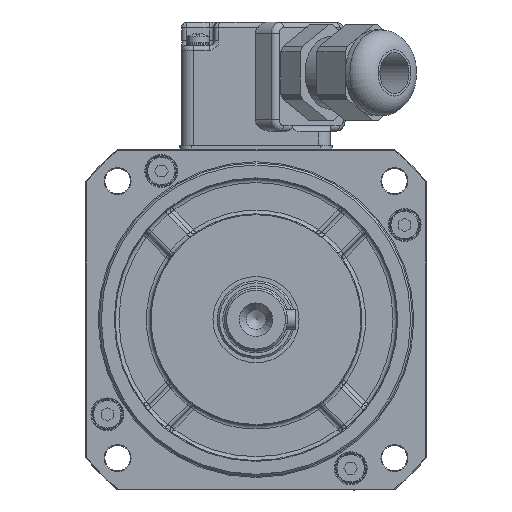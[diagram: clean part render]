
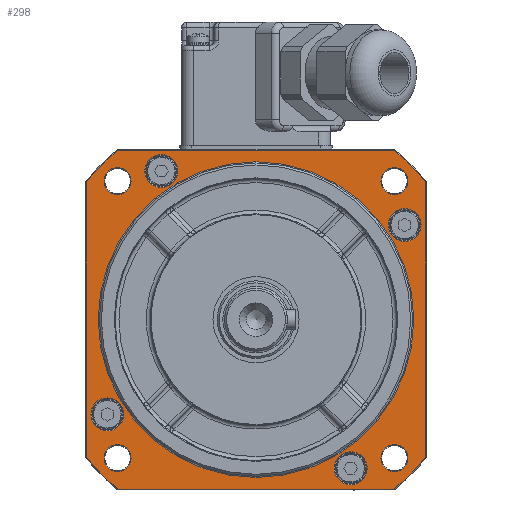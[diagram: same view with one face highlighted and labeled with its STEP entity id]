
A CAD part, front view. The second image highlights one B-rep face of the part: STEP entity #298.
In plain terms, the highlighted planar face has unit normal (0, -1, 0).
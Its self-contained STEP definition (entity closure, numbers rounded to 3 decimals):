
#298=ADVANCED_FACE('',(#2345,#2346,#2347,#2348,#2349,#2350,#2351,#2352,#2353,#2354),#2355,.T.);
#2345=FACE_BOUND('',#8034,.T.);
#2346=FACE_BOUND('',#8035,.T.);
#2347=FACE_BOUND('',#8036,.T.);
#2348=FACE_BOUND('',#8037,.T.);
#2349=FACE_BOUND('',#8038,.T.);
#2350=FACE_BOUND('',#8039,.T.);
#2351=FACE_BOUND('',#8040,.T.);
#2352=FACE_BOUND('',#8041,.T.);
#2353=FACE_BOUND('',#8042,.T.);
#2354=FACE_OUTER_BOUND('',#8043,.T.);
#2355=PLANE('',#8044);
#8034=EDGE_LOOP('',(#18269));
#8035=EDGE_LOOP('',(#18270));
#8036=EDGE_LOOP('',(#18271));
#8037=EDGE_LOOP('',(#18272));
#8038=EDGE_LOOP('',(#18273));
#8039=EDGE_LOOP('',(#18274));
#8040=EDGE_LOOP('',(#18275));
#8041=EDGE_LOOP('',(#18276));
#8042=EDGE_LOOP('',(#18277));
#8043=EDGE_LOOP('',(#18278,#18279,#18280,#18281,#18282,#18283,#18284,#18285));
#8044=AXIS2_PLACEMENT_3D('',#18286,#18287,#18288);
#18269=ORIENTED_EDGE('',*,*,#31101,.T.);
#18270=ORIENTED_EDGE('',*,*,#30829,.T.);
#18271=ORIENTED_EDGE('',*,*,#30930,.T.);
#18272=ORIENTED_EDGE('',*,*,#31102,.T.);
#18273=ORIENTED_EDGE('',*,*,#31103,.T.);
#18274=ORIENTED_EDGE('',*,*,#30711,.T.);
#18275=ORIENTED_EDGE('',*,*,#31104,.T.);
#18276=ORIENTED_EDGE('',*,*,#31105,.T.);
#18277=ORIENTED_EDGE('',*,*,#31106,.T.);
#18278=ORIENTED_EDGE('',*,*,#31107,.T.);
#18279=ORIENTED_EDGE('',*,*,#31108,.T.);
#18280=ORIENTED_EDGE('',*,*,#31109,.T.);
#18281=ORIENTED_EDGE('',*,*,#31110,.T.);
#18282=ORIENTED_EDGE('',*,*,#31111,.T.);
#18283=ORIENTED_EDGE('',*,*,#31112,.T.);
#18284=ORIENTED_EDGE('',*,*,#31113,.T.);
#18285=ORIENTED_EDGE('',*,*,#31000,.T.);
#18286=CARTESIAN_POINT('',(0.,-126.,0.));
#18287=DIRECTION('',(0.,-1.0,0.));
#18288=DIRECTION('',(-1.0,0.,0.0));
#30711=EDGE_CURVE('',#35122,#35122,#35123,.T.);
#30829=EDGE_CURVE('',#35324,#35324,#35325,.T.);
#30930=EDGE_CURVE('',#35489,#35489,#35490,.T.);
#31000=EDGE_CURVE('',#35598,#35600,#35602,.T.);
#31101=EDGE_CURVE('',#35748,#35748,#35749,.T.);
#31102=EDGE_CURVE('',#35750,#35750,#35751,.T.);
#31103=EDGE_CURVE('',#35752,#35752,#35753,.T.);
#31104=EDGE_CURVE('',#35754,#35754,#35755,.T.);
#31105=EDGE_CURVE('',#35756,#35756,#35757,.T.);
#31106=EDGE_CURVE('',#35758,#35758,#35759,.T.);
#31107=EDGE_CURVE('',#35600,#35760,#35761,.T.);
#31108=EDGE_CURVE('',#35760,#35762,#35763,.T.);
#31109=EDGE_CURVE('',#35762,#35764,#35765,.T.);
#31110=EDGE_CURVE('',#35764,#35766,#35767,.T.);
#31111=EDGE_CURVE('',#35766,#35768,#35769,.T.);
#31112=EDGE_CURVE('',#35768,#35770,#35771,.T.);
#31113=EDGE_CURVE('',#35770,#35598,#35772,.T.);
#35122=VERTEX_POINT('',#42433);
#35123=CIRCLE('',#42434,3.45);
#35324=VERTEX_POINT('',#42858);
#35325=CIRCLE('',#42859,4.2);
#35489=VERTEX_POINT('',#43440);
#35490=CIRCLE('',#43441,4.2);
#35598=VERTEX_POINT('',#43619);
#35600=VERTEX_POINT('',#43621);
#35602=LINE('',#43623,#43624);
#35748=VERTEX_POINT('',#43964);
#35749=CIRCLE('',#43965,40.3);
#35750=VERTEX_POINT('',#43966);
#35751=CIRCLE('',#43967,4.2);
#35752=VERTEX_POINT('',#43968);
#35753=CIRCLE('',#43969,4.2);
#35754=VERTEX_POINT('',#43970);
#35755=CIRCLE('',#43971,3.45);
#35756=VERTEX_POINT('',#43972);
#35757=CIRCLE('',#43973,3.45);
#35758=VERTEX_POINT('',#43974);
#35759=CIRCLE('',#43975,3.45);
#35760=VERTEX_POINT('',#43976);
#35761=CIRCLE('',#43977,55.8);
#35762=VERTEX_POINT('',#43978);
#35763=LINE('',#43979,#43980);
#35764=VERTEX_POINT('',#43981);
#35765=CIRCLE('',#43982,55.8);
#35766=VERTEX_POINT('',#43983);
#35767=LINE('',#43984,#43985);
#35768=VERTEX_POINT('',#43986);
#35769=CIRCLE('',#43987,55.8);
#35770=VERTEX_POINT('',#43988);
#35771=LINE('',#43989,#43990);
#35772=CIRCLE('',#43991,55.8);
#42433=CARTESIAN_POINT('',(-35.355,-126.,-31.905));
#42434=AXIS2_PLACEMENT_3D('',#54315,#54316,#54317);
#42858=CARTESIAN_POINT('',(-37.953,-126.,-19.978));
#42859=AXIS2_PLACEMENT_3D('',#54511,#54512,#54513);
#43440=CARTESIAN_POINT('',(-24.178,-126.,42.153));
#43441=AXIS2_PLACEMENT_3D('',#54688,#54689,#54690);
#43619=CARTESIAN_POINT('',(43.3,-126.,-35.196));
#43621=CARTESIAN_POINT('',(43.3,-126.,35.196));
#43623=CARTESIAN_POINT('',(43.3,-126.,0.));
#43624=VECTOR('',#54844,1.0);
#43964=CARTESIAN_POINT('',(0.,-126.,40.3));
#43965=AXIS2_PLACEMENT_3D('',#55052,#55053,#55054);
#43966=CARTESIAN_POINT('',(24.178,-126.,-33.753));
#43967=AXIS2_PLACEMENT_3D('',#55055,#55056,#55057);
#43968=CARTESIAN_POINT('',(37.953,-126.,28.378));
#43969=AXIS2_PLACEMENT_3D('',#55058,#55059,#55060);
#43970=CARTESIAN_POINT('',(-35.355,-126.,38.805));
#43971=AXIS2_PLACEMENT_3D('',#55061,#55062,#55063);
#43972=CARTESIAN_POINT('',(35.355,-126.,-31.905));
#43973=AXIS2_PLACEMENT_3D('',#55064,#55065,#55066);
#43974=CARTESIAN_POINT('',(35.355,-126.,38.805));
#43975=AXIS2_PLACEMENT_3D('',#55067,#55068,#55069);
#43976=CARTESIAN_POINT('',(35.196,-126.,43.3));
#43977=AXIS2_PLACEMENT_3D('',#55070,#55071,#55072);
#43978=CARTESIAN_POINT('',(-35.196,-126.,43.3));
#43979=CARTESIAN_POINT('',(0.,-126.,43.3));
#43980=VECTOR('',#55073,1.0);
#43981=CARTESIAN_POINT('',(-43.3,-126.,35.196));
#43982=AXIS2_PLACEMENT_3D('',#55074,#55075,#55076);
#43983=CARTESIAN_POINT('',(-43.3,-126.,-35.196));
#43984=CARTESIAN_POINT('',(-43.3,-126.,0.));
#43985=VECTOR('',#55077,1.0);
#43986=CARTESIAN_POINT('',(-35.196,-126.,-43.3));
#43987=AXIS2_PLACEMENT_3D('',#55078,#55079,#55080);
#43988=CARTESIAN_POINT('',(35.196,-126.,-43.3));
#43989=CARTESIAN_POINT('',(0.,-126.,-43.3));
#43990=VECTOR('',#55081,1.0);
#43991=AXIS2_PLACEMENT_3D('',#55082,#55083,#55084);
#54315=CARTESIAN_POINT('',(-35.355,-126.,-35.355));
#54316=DIRECTION('',(0.,1.0,0.));
#54317=DIRECTION('',(0.,0.,1.0));
#54511=CARTESIAN_POINT('',(-37.953,-126.,-24.178));
#54512=DIRECTION('',(0.,1.0,0.));
#54513=DIRECTION('',(0.,0.,1.0));
#54688=CARTESIAN_POINT('',(-24.178,-126.,37.953));
#54689=DIRECTION('',(0.,1.0,0.));
#54690=DIRECTION('',(0.,0.,1.0));
#54844=DIRECTION('',(0.,0.,1.0));
#55052=CARTESIAN_POINT('',(0.,-126.,0.));
#55053=DIRECTION('',(0.,1.0,0.));
#55054=DIRECTION('',(0.,0.,1.0));
#55055=CARTESIAN_POINT('',(24.178,-126.,-37.953));
#55056=DIRECTION('',(0.,1.0,0.));
#55057=DIRECTION('',(0.,0.,1.0));
#55058=CARTESIAN_POINT('',(37.953,-126.,24.178));
#55059=DIRECTION('',(0.,1.0,0.));
#55060=DIRECTION('',(0.,0.,1.0));
#55061=CARTESIAN_POINT('',(-35.355,-126.,35.355));
#55062=DIRECTION('',(0.,1.0,0.));
#55063=DIRECTION('',(0.,0.,1.0));
#55064=CARTESIAN_POINT('',(35.355,-126.,-35.355));
#55065=DIRECTION('',(0.,1.0,0.));
#55066=DIRECTION('',(0.,0.,1.0));
#55067=CARTESIAN_POINT('',(35.355,-126.,35.355));
#55068=DIRECTION('',(0.,1.0,0.));
#55069=DIRECTION('',(0.,0.,1.0));
#55070=CARTESIAN_POINT('',(0.,-126.,0.));
#55071=DIRECTION('',(0.,-1.0,0.));
#55072=DIRECTION('',(0.,0.,1.0));
#55073=DIRECTION('',(-1.0,0.,0.));
#55074=CARTESIAN_POINT('',(0.,-126.,0.));
#55075=DIRECTION('',(0.,-1.0,0.));
#55076=DIRECTION('',(0.,0.,1.0));
#55077=DIRECTION('',(0.,0.,-1.0));
#55078=CARTESIAN_POINT('',(0.,-126.,0.));
#55079=DIRECTION('',(0.,-1.0,0.));
#55080=DIRECTION('',(0.,0.,1.0));
#55081=DIRECTION('',(1.0,0.,0.));
#55082=CARTESIAN_POINT('',(0.,-126.,0.));
#55083=DIRECTION('',(0.,-1.0,0.));
#55084=DIRECTION('',(0.,0.,1.0));
